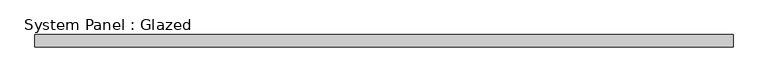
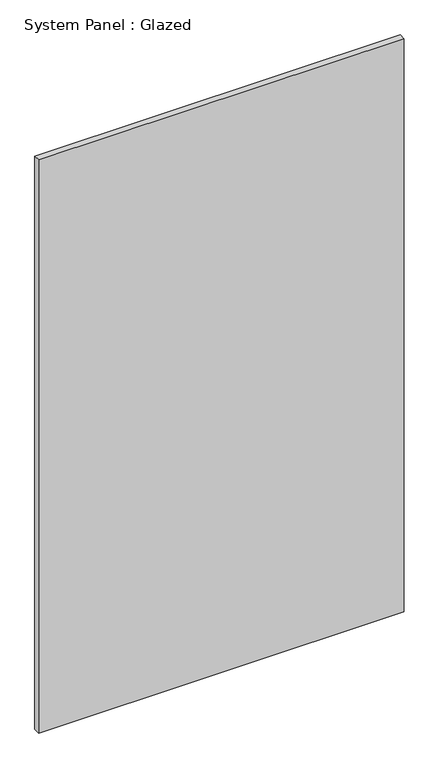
"""IFC4 building model written with IfcOpenShell, lengths in millimetres: plate geometry, System Panel : Glazed."""

from ifc_helpers import new_model, si_unit, origin, origin_with_axes, place, context, project, spatial, polyline, outline, extrude, source, transform, mapped, element, save


def system_panel_glazed_4c130a31(model_context):
    return source(origin(), model_context, "Body", "SweptSolid", [
        extrude(outline(polyline([(721.2366101, -49.5), (-721.2366101, -49.5), (-721.2366101, -24.5), (721.2366101, -24.5), (721.2366101, -49.5)])), origin_with_axes(), (0.0, 0.0, 1.0), 2390.0),
    ])


if __name__ == "__main__":
    model = new_model("IFC4")
    model_context = context("Model", 3, world=origin())
    ifc_project = project(units=[si_unit("LENGTHUNIT", "METRE", prefix="MILLI")], contexts=[model_context])
    site = spatial("IfcSite", under=ifc_project)
    building = spatial("IfcBuilding", under=site)
    placement = place(None, origin())
    system_panel_glazed_shape = system_panel_glazed_4c130a31(model_context)
    element("IfcPlate", 1, ObjectType="System Panel : Glazed", at=placement, inside=building, context=model_context, shape_type="MappedRepresentation", body=[
        mapped(system_panel_glazed_shape, transform((0.0, 0.0, 0.0), x_axis=(1.0, 0.0, 0.0), y_axis=(0.0, 1.0, 0.0), z_axis=(0.0, 0.0, 1.0))),
    ])
    save(model, "model.ifc")
